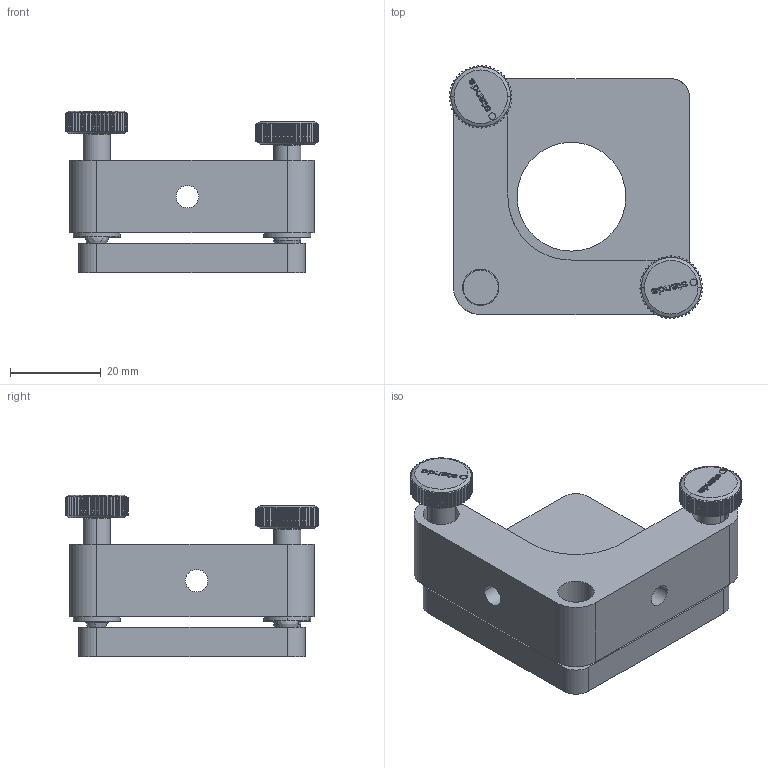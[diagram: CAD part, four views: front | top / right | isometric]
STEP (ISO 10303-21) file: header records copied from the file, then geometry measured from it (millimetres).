
FILE_DESCRIPTION (( 'STEP AP203' ), '1' );
FILE_NAME ('5MBM21-1-2.STEP', '2008-09-26T17:24:41', ( 'Darius' ), ( '' ), 'SwSTEP 2.0', 'SolidWorks 2003240', '' );
FILE_SCHEMA (( 'CONFIG_CONTROL_DESIGN' ));
Length unit declared in the file: millimetre
Products named in the file (1): 5MBM21-1-2
Bounding box: 55.8 x 55.79 x 35.71 mm (x, y, z)
Volume: 31258 mm3; surface area: 13955 mm2
Topology: 1 solids, 2 shells, 1211 faces, 3432 edges, 2274 vertices
Faces by surface type: cylinder 491, plane 406, bspline 264, cone 50
Entity records: 50120 total; most frequent: CARTESIAN_POINT 22109, ORIENTED_EDGE 6852, DIRECTION 4169, EDGE_CURVE 3426, VERTEX_POINT 2274, B_SPLINE_CURVE_WITH_KNOTS 1561, LINE 1457, VECTOR 1457
